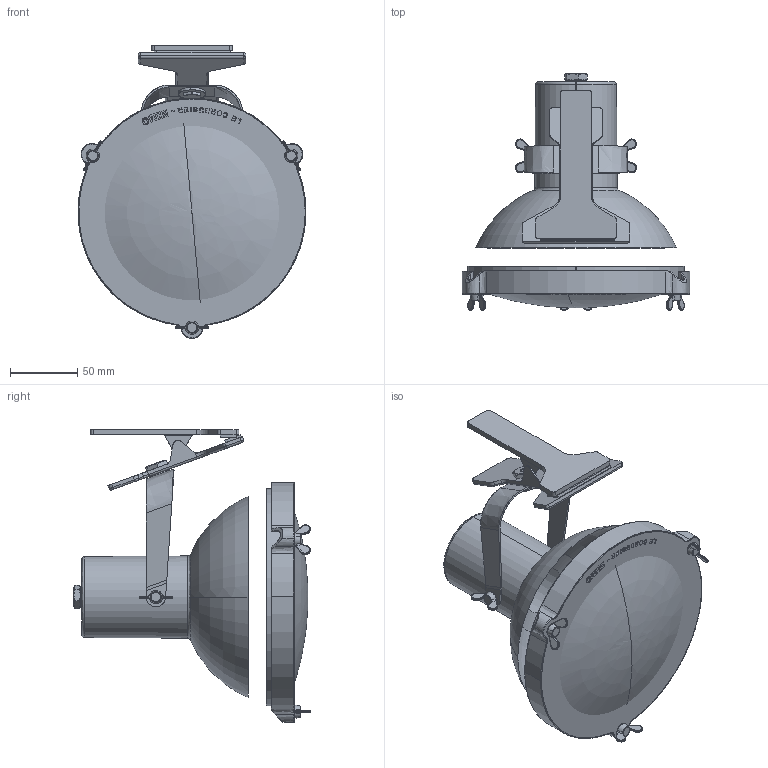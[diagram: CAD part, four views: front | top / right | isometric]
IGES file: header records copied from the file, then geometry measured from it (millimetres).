
Start section: SolidWorks IGES file using analytic representation for surfaces
Global section: file name: C:\Users\tungari.NEMOLIGHTING\Desktop\3D\TABLE\3D_PROJECTEUR_165_CLIP_PINZA\DEFEATURE\3D_PROJECTEUR_165_CLIP.IGS; native system: SolidWorks 2016; preprocessor: SolidWorks 2016; author: tungari; date: 180301.153830; units: millimetre
Bounding box: 169 x 175.49 x 217.27 mm (x, y, z)
Surface area: 161282 mm2 (no closed solid volume)
Topology: 0 solids, 0 shells, 993 faces, 8217 edges, 8212 vertices
Faces by surface type: bspline 700, revolution 293
